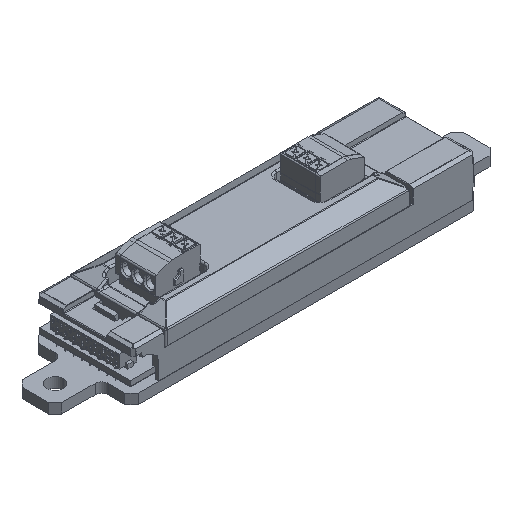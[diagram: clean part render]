
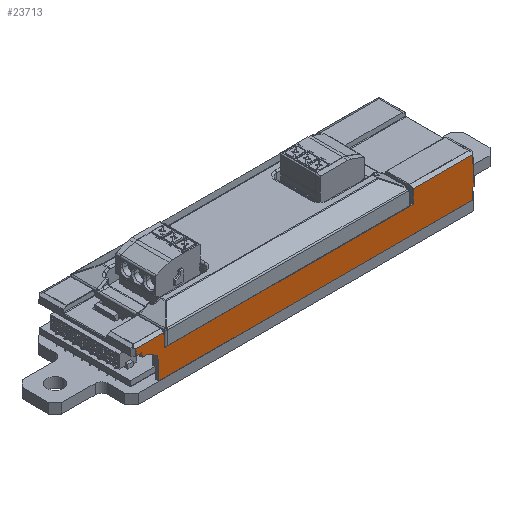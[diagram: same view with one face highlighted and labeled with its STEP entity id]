
A CAD part, isometric view. The second image highlights one B-rep face of the part: STEP entity #23713.
In plain terms, the highlighted planar face has unit normal (0, -0.999, 0.044).
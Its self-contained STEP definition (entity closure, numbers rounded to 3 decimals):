
#26 = VERTEX_POINT ( 'NONE', #39117 ) ;
#200 = CARTESIAN_POINT ( 'NONE',  ( 50.324, -14.889, 6.131 ) ) ;
#1739 = LINE ( 'NONE', #87765, #93040 ) ;
#2313 = CARTESIAN_POINT ( 'NONE',  ( -42.15, -14.696, 10.531 ) ) ;
#2901 = EDGE_CURVE ( 'NONE', #30431, #98840, #93677, .T. ) ;
#5549 = VECTOR ( 'NONE', #52305, 1000. ) ;
#6010 = LINE ( 'NONE', #104628, #97336 ) ;
#6940 = ORIENTED_EDGE ( 'NONE', *, *, #67216, .F. ) ;
#7328 = VERTEX_POINT ( 'NONE', #23781 ) ;
#7419 = DIRECTION ( 'NONE',  ( 1., 0., 0. ) ) ;
#7682 = CARTESIAN_POINT ( 'NONE',  ( 0., -14.662, 11.331 ) ) ;
#7701 = ORIENTED_EDGE ( 'NONE', *, *, #87549, .T. ) ;
#8149 = VECTOR ( 'NONE', #43868, 1000. ) ;
#8795 = CARTESIAN_POINT ( 'NONE',  ( 51.5, -14.526, 14.438 ) ) ;
#10268 = DIRECTION ( 'NONE',  ( -0.035, -0.044, -0.998 ) ) ;
#10618 = EDGE_CURVE ( 'NONE', #98840, #38323, #109340, .T. ) ;
#10651 = VERTEX_POINT ( 'NONE', #200 ) ;
#10843 = ORIENTED_EDGE ( 'NONE', *, *, #87557, .T. ) ;
#11392 = DIRECTION ( 'NONE',  ( 0., -0.044, -0.999 ) ) ;
#11534 = CARTESIAN_POINT ( 'NONE',  ( -44.3, -14.5, 15.031 ) ) ;
#11569 = VERTEX_POINT ( 'NONE', #106038 ) ;
#12922 = VERTEX_POINT ( 'NONE', #89471 ) ;
#13236 = CARTESIAN_POINT ( 'NONE',  ( -50.657, -14.526, 14.438 ) ) ;
#13395 = ORIENTED_EDGE ( 'NONE', *, *, #59780, .T. ) ;
#17646 = DIRECTION ( 'NONE',  ( -1., 0., 0. ) ) ;
#17967 = EDGE_LOOP ( 'NONE', ( #10843, #41072, #35914, #97009, #62882, #66496, #50718, #85899, #99565, #68762, #6940, #7701, #93335, #13395, #29831, #71030, #91669 ) ) ;
#19339 = LINE ( 'NONE', #11534, #66434 ) ;
#19686 = LINE ( 'NONE', #43735, #63990 ) ;
#22067 = VERTEX_POINT ( 'NONE', #83734 ) ;
#22139 = EDGE_CURVE ( 'NONE', #10651, #11569, #62359, .T. ) ;
#22706 = EDGE_CURVE ( 'NONE', #83121, #37840, #49278, .T. ) ;
#23713 = ADVANCED_FACE ( 'NONE', ( #72381 ), #63645, .T. ) ;
#23781 = CARTESIAN_POINT ( 'NONE',  ( -44.3, -14.737, 9.599 ) ) ;
#25675 = CARTESIAN_POINT ( 'NONE',  ( 0., -14.696, 10.531 ) ) ;
#26631 = VECTOR ( 'NONE', #37640, 1000. ) ;
#26707 = VECTOR ( 'NONE', #78682, 1000. ) ;
#26750 = EDGE_CURVE ( 'NONE', #7328, #22067, #19339, .T. ) ;
#27890 = CARTESIAN_POINT ( 'NONE',  ( -49.028, -14.575, 13.322 ) ) ;
#28388 = LINE ( 'NONE', #106419, #52098 ) ;
#28770 = CARTESIAN_POINT ( 'NONE',  ( 0., -14.609, 12.531 ) ) ;
#29450 = CARTESIAN_POINT ( 'NONE',  ( -50.699, -14.526, 14.425 ) ) ;
#29475 = LINE ( 'NONE', #25675, #26707 ) ;
#29831 = ORIENTED_EDGE ( 'NONE', *, *, #68713, .T. ) ;
#30431 = VERTEX_POINT ( 'NONE', #111059 ) ;
#31627 = LINE ( 'NONE', #87993, #8149 ) ;
#31830 = CARTESIAN_POINT ( 'NONE',  ( -48.958, -14.662, 11.331 ) ) ;
#32278 = CARTESIAN_POINT ( 'NONE',  ( -50.699, -14.526, 14.425 ) ) ;
#33204 = VECTOR ( 'NONE', #7419, 1000. ) ;
#34196 = DIRECTION ( 'NONE',  ( 0., 0.044, 0.999 ) ) ;
#35496 = VERTEX_POINT ( 'NONE', #2313 ) ;
#35914 = ORIENTED_EDGE ( 'NONE', *, *, #82476, .T. ) ;
#37640 = DIRECTION ( 'NONE',  ( 1., 0., 0. ) ) ;
#37840 = VERTEX_POINT ( 'NONE', #32278 ) ;
#38323 = VERTEX_POINT ( 'NONE', #39544 ) ;
#39117 = CARTESIAN_POINT ( 'NONE',  ( 32.786, -14.526, 14.438 ) ) ;
#39359 = CARTESIAN_POINT ( 'NONE',  ( 50.699, -14.526, 14.425 ) ) ;
#39544 = CARTESIAN_POINT ( 'NONE',  ( -47.3, -14.662, 11.331 ) ) ;
#41072 = ORIENTED_EDGE ( 'NONE', *, *, #72402, .T. ) ;
#42044 = CARTESIAN_POINT ( 'NONE',  ( 0., -15.024, 3.031 ) ) ;
#42612 = VECTOR ( 'NONE', #17646, 1000. ) ;
#42667 = VECTOR ( 'NONE', #50997, 1000. ) ;
#43356 = CARTESIAN_POINT ( 'NONE',  ( 50.699, -14.526, 14.437 ) ) ;
#43735 = CARTESIAN_POINT ( 'NONE',  ( 51.5, -14.526, 14.438 ) ) ;
#43868 = DIRECTION ( 'NONE',  ( 0.866, -0.022, -0.5 ) ) ;
#44010 = DIRECTION ( 'NONE',  ( 1., 0., 0. ) ) ;
#45419 = CARTESIAN_POINT ( 'NONE',  ( 32.65, -14.697, 10.525 ) ) ;
#45819 = VECTOR ( 'NONE', #44010, 1000. ) ;
#46574 = VECTOR ( 'NONE', #54242, 1000. ) ;
#46879 = EDGE_CURVE ( 'NONE', #37840, #12922, #1739, .T. ) ;
#48025 = CARTESIAN_POINT ( 'NONE',  ( -50.679, -14.526, 14.434 ) ) ;
#48274 = CARTESIAN_POINT ( 'NONE',  ( 50.657, -14.526, 14.438 ) ) ;
#49278 =( BOUNDED_CURVE ( )  B_SPLINE_CURVE ( 3, ( #91760, #13236, #48025, #29450 ),
 .UNSPECIFIED., .F., .T. ) 
 B_SPLINE_CURVE_WITH_KNOTS ( ( 4, 4 ),
 ( 2.353, 2.738 ),
 .UNSPECIFIED. ) 
 CURVE ( )  GEOMETRIC_REPRESENTATION_ITEM ( )  RATIONAL_B_SPLINE_CURVE ( ( 1., 0.988, 0.988, 1. ) ) 
 REPRESENTATION_ITEM ( '' )  );
#50718 = ORIENTED_EDGE ( 'NONE', *, *, #2901, .T. ) ;
#50997 = DIRECTION ( 'NONE',  ( -1., 0., 0. ) ) ;
#52098 = VECTOR ( 'NONE', #53392, 1000. ) ;
#52305 = DIRECTION ( 'NONE',  ( -0.018, 0.044, 0.999 ) ) ;
#52585 = DIRECTION ( 'NONE',  ( -0.018, -0.044, -0.999 ) ) ;
#53392 = DIRECTION ( 'NONE',  ( -0.035, 0.044, 0.998 ) ) ;
#53656 = CARTESIAN_POINT ( 'NONE',  ( 50.631, -14.526, 14.438 ) ) ;
#54193 = VERTEX_POINT ( 'NONE', #74194 ) ;
#54242 = DIRECTION ( 'NONE',  ( 0.035, -0.044, -0.998 ) ) ;
#55536 = VECTOR ( 'NONE', #10268, 1000. ) ;
#56066 = VERTEX_POINT ( 'NONE', #91303 ) ;
#56179 = CARTESIAN_POINT ( 'NONE',  ( -50.631, -14.526, 14.438 ) ) ;
#59203 = CARTESIAN_POINT ( 'NONE',  ( 0., -14.889, 6.131 ) ) ;
#59780 = EDGE_CURVE ( 'NONE', #11569, #102196, #92777, .T. ) ;
#62359 = LINE ( 'NONE', #59203, #45819 ) ;
#62882 = ORIENTED_EDGE ( 'NONE', *, *, #46879, .T. ) ;
#63645 = PLANE ( 'NONE',  #84746 ) ;
#63990 = VECTOR ( 'NONE', #87096, 1000. ) ;
#66248 = LINE ( 'NONE', #42044, #42667 ) ;
#66434 = VECTOR ( 'NONE', #11392, 1000. ) ;
#66496 = ORIENTED_EDGE ( 'NONE', *, *, #71632, .T. ) ;
#66730 = VERTEX_POINT ( 'NONE', #53656 ) ;
#67216 = EDGE_CURVE ( 'NONE', #106715, #22067, #66248, .T. ) ;
#68685 =( BOUNDED_CURVE ( )  B_SPLINE_CURVE ( 3, ( #39359, #100878, #48274, #110221 ),
 .UNSPECIFIED., .F., .T. ) 
 B_SPLINE_CURVE_WITH_KNOTS ( ( 4, 4 ),
 ( 0.404, 0.788 ),
 .UNSPECIFIED. ) 
 CURVE ( )  GEOMETRIC_REPRESENTATION_ITEM ( )  RATIONAL_B_SPLINE_CURVE ( ( 1., 0.988, 0.988, 1. ) ) 
 REPRESENTATION_ITEM ( '' )  );
#68713 = EDGE_CURVE ( 'NONE', #102196, #66730, #68685, .T. ) ;
#68762 = ORIENTED_EDGE ( 'NONE', *, *, #26750, .T. ) ;
#69639 = CARTESIAN_POINT ( 'NONE',  ( 50.699, -14.526, 14.425 ) ) ;
#70719 = CARTESIAN_POINT ( 'NONE',  ( 50.216, -15.024, 3.031 ) ) ;
#70957 = LINE ( 'NONE', #28770, #26631 ) ;
#71030 = ORIENTED_EDGE ( 'NONE', *, *, #86765, .T. ) ;
#71632 = EDGE_CURVE ( 'NONE', #12922, #30431, #70957, .T. ) ;
#72381 = FACE_OUTER_BOUND ( 'NONE', #17967, .T. ) ;
#72402 = EDGE_CURVE ( 'NONE', #35496, #54193, #28388, .T. ) ;
#74194 = CARTESIAN_POINT ( 'NONE',  ( -42.286, -14.526, 14.438 ) ) ;
#78682 = DIRECTION ( 'NONE',  ( -1., 0., 0. ) ) ;
#79049 = LINE ( 'NONE', #45419, #55536 ) ;
#81444 = CARTESIAN_POINT ( 'NONE',  ( 0., -14.5, 15.031 ) ) ;
#82476 = EDGE_CURVE ( 'NONE', #54193, #83121, #89727, .T. ) ;
#83121 = VERTEX_POINT ( 'NONE', #56179 ) ;
#83734 = CARTESIAN_POINT ( 'NONE',  ( -44.3, -15.024, 3.031 ) ) ;
#84746 = AXIS2_PLACEMENT_3D ( 'NONE', #81444, #96161, #34196 ) ;
#85899 = ORIENTED_EDGE ( 'NONE', *, *, #10618, .T. ) ;
#86765 = EDGE_CURVE ( 'NONE', #66730, #26, #19686, .T. ) ;
#87096 = DIRECTION ( 'NONE',  ( -1., 0., 0. ) ) ;
#87549 = EDGE_CURVE ( 'NONE', #106715, #10651, #6010, .T. ) ;
#87557 = EDGE_CURVE ( 'NONE', #56066, #35496, #29475, .T. ) ;
#87591 = DIRECTION ( 'NONE',  ( 0.035, 0.044, 0.998 ) ) ;
#87765 = CARTESIAN_POINT ( 'NONE',  ( -50.733, -14.609, 12.53 ) ) ;
#87993 = CARTESIAN_POINT ( 'NONE',  ( -13.446, -15.515, -8.215 ) ) ;
#89471 = CARTESIAN_POINT ( 'NONE',  ( -50.733, -14.609, 12.531 ) ) ;
#89727 = LINE ( 'NONE', #8795, #42612 ) ;
#91303 = CARTESIAN_POINT ( 'NONE',  ( 32.65, -14.696, 10.531 ) ) ;
#91669 = ORIENTED_EDGE ( 'NONE', *, *, #114364, .T. ) ;
#91760 = CARTESIAN_POINT ( 'NONE',  ( -50.631, -14.526, 14.438 ) ) ;
#92777 = LINE ( 'NONE', #43356, #5549 ) ;
#93040 = VECTOR ( 'NONE', #52585, 1000. ) ;
#93335 = ORIENTED_EDGE ( 'NONE', *, *, #22139, .T. ) ;
#93677 = LINE ( 'NONE', #27890, #46574 ) ;
#96161 = DIRECTION ( 'NONE',  ( 0., -0.999, 0.044 ) ) ;
#97009 = ORIENTED_EDGE ( 'NONE', *, *, #22706, .T. ) ;
#97336 = VECTOR ( 'NONE', #87591, 1000. ) ;
#98840 = VERTEX_POINT ( 'NONE', #31830 ) ;
#99565 = ORIENTED_EDGE ( 'NONE', *, *, #107218, .T. ) ;
#100878 = CARTESIAN_POINT ( 'NONE',  ( 50.679, -14.526, 14.434 ) ) ;
#102196 = VERTEX_POINT ( 'NONE', #69639 ) ;
#104628 = CARTESIAN_POINT ( 'NONE',  ( 50.573, -14.577, 13.268 ) ) ;
#106038 = CARTESIAN_POINT ( 'NONE',  ( 50.849, -14.889, 6.131 ) ) ;
#106419 = CARTESIAN_POINT ( 'NONE',  ( -42.256, -14.564, 13.558 ) ) ;
#106715 = VERTEX_POINT ( 'NONE', #70719 ) ;
#107218 = EDGE_CURVE ( 'NONE', #38323, #7328, #31627, .T. ) ;
#109340 = LINE ( 'NONE', #7682, #33204 ) ;
#110221 = CARTESIAN_POINT ( 'NONE',  ( 50.631, -14.526, 14.438 ) ) ;
#111059 = CARTESIAN_POINT ( 'NONE',  ( -49., -14.609, 12.531 ) ) ;
#114364 = EDGE_CURVE ( 'NONE', #26, #56066, #79049, .T. ) ;
